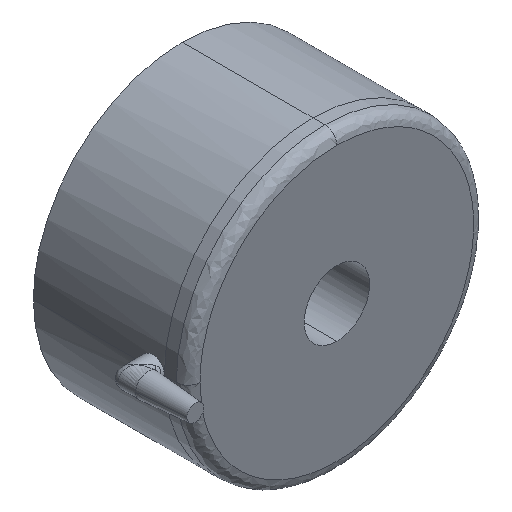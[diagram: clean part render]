
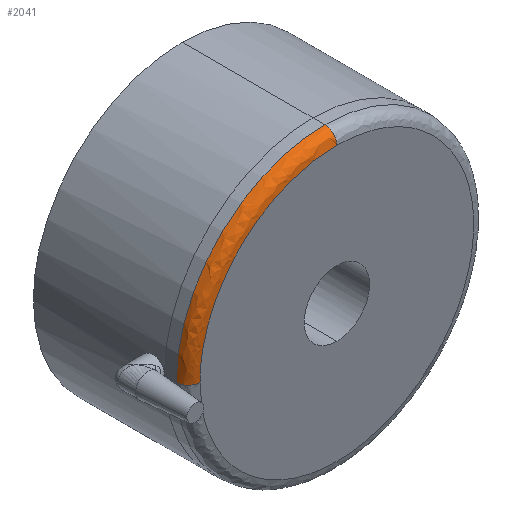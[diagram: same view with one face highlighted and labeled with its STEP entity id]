
A CAD part, isometric view. The second image highlights one B-rep face of the part: STEP entity #2041.
In plain terms, the highlighted free-form (B-spline) face has degree [3, 3] with [4, 4] control points.
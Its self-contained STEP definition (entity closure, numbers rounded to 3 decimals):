
#11 = CARTESIAN_POINT ( 'NONE',  ( -8.55, -1., 9.128 ) ) ;
#33 = B_SPLINE_CURVE_WITH_KNOTS ( 'NONE', 2,
 ( #1029, #668, #2358, #1441, #1636, #2399, #1241, #2174, #67 ),
 .UNSPECIFIED., .F., .F.,
 ( 3, 2, 2, 2, 3 ),
 ( 0., 0.25, 0.5, 0.75, 1. ),
 .UNSPECIFIED. ) ;
#34 = CARTESIAN_POINT ( 'NONE',  ( -8.246, -1., 9.403 ) ) ;
#44 = CARTESIAN_POINT ( 'NONE',  ( -5.161, -1., 11.392 ) ) ;
#58 = CARTESIAN_POINT ( 'NONE',  ( -12.08, -2.063, 0. ) ) ;
#67 = CARTESIAN_POINT ( 'NONE',  ( -11.5, -2., 0. ) ) ;
#84 = CARTESIAN_POINT ( 'NONE',  ( -12.495, -0.9, 0. ) ) ;
#98 = CARTESIAN_POINT ( 'NONE',  ( -12.495, -0.9, 7.319 ) ) ;
#196 = CARTESIAN_POINT ( 'NONE',  ( 0., -2.063, 12.08 ) ) ;
#231 = CARTESIAN_POINT ( 'NONE',  ( -9.128, -1., 8.55 ) ) ;
#241 = CARTESIAN_POINT ( 'NONE',  ( -11.843, -1., 4.02 ) ) ;
#252 = CARTESIAN_POINT ( 'NONE',  ( 0., -1., 12.5 ) ) ;
#293 = CARTESIAN_POINT ( 'NONE',  ( 0., -1., 12.5 ) ) ;
#352 = CARTESIAN_POINT ( 'NONE',  ( 0., -1., 12.5 ) ) ;
#360 = ORIENTED_EDGE ( 'NONE', *, *, #2088, .T. ) ;
#391 = FACE_OUTER_BOUND ( 'NONE', #1028, .T. ) ;
#418 = CARTESIAN_POINT ( 'NONE',  ( -10.621, -1., 6.605 ) ) ;
#428 = CARTESIAN_POINT ( 'NONE',  ( -12.5, -1., 0. ) ) ;
#439 = CARTESIAN_POINT ( 'NONE',  ( -4.02, -1., 11.843 ) ) ;
#502 = CARTESIAN_POINT ( 'NONE',  ( -12.5, -1., 0. ) ) ;
#621 = VERTEX_POINT ( 'NONE', #2338 ) ;
#631 = EDGE_CURVE ( 'NONE', #1333, #1917, #1830, .T. ) ;
#634 = CARTESIAN_POINT ( 'NONE',  ( -5.532, -1., 11.217 ) ) ;
#648 = CARTESIAN_POINT ( 'NONE',  ( -7.359, -1.58, 12.563 ) ) ;
#656 = CARTESIAN_POINT ( 'NONE',  ( -2.84, -1., 12.18 ) ) ;
#659 = CARTESIAN_POINT ( 'NONE',  ( 0., -2., 11.5 ) ) ;
#668 = CARTESIAN_POINT ( 'NONE',  ( -2.288, -2., 11.5 ) ) ;
#671 = ORIENTED_EDGE ( 'NONE', *, *, #2319, .F. ) ;
#696 = CARTESIAN_POINT ( 'NONE',  ( -11.4, -1.995, 6.678 ) ) ;
#745 =( BOUNDED_CURVE ( )  B_SPLINE_CURVE ( 3, ( #1045, #2389, #2026, #293 ),
 .UNSPECIFIED., .F., .T. ) 
 B_SPLINE_CURVE_WITH_KNOTS ( ( 4, 4 ),
 ( 0.063, 0.937 ),
 .UNSPECIFIED. ) 
 CURVE ( )  GEOMETRIC_REPRESENTATION_ITEM ( )  RATIONAL_B_SPLINE_CURVE ( ( 0.957, 0.77, 0.77, 0.957 ) ) 
 REPRESENTATION_ITEM ( '' )  );
#832 = CARTESIAN_POINT ( 'NONE',  ( -12.563, -1.58, 7.359 ) ) ;
#966 = CARTESIAN_POINT ( 'NONE',  ( -12.34, -1., 2.037 ) ) ;
#978 = CARTESIAN_POINT ( 'NONE',  ( -9.922, -1., 7.614 ) ) ;
#1008 = CARTESIAN_POINT ( 'NONE',  ( -11.705, -1., 4.406 ) ) ;
#1028 = EDGE_LOOP ( 'NONE', ( #2280, #671, #360, #1674 ) ) ;
#1029 = CARTESIAN_POINT ( 'NONE',  ( 0., -2., 11.5 ) ) ;
#1030 = CARTESIAN_POINT ( 'NONE',  ( -0.409, -1., 12.5 ) ) ;
#1045 = CARTESIAN_POINT ( 'NONE',  ( 0., -2., 11.5 ) ) ;
#1063 = CARTESIAN_POINT ( 'NONE',  ( -12.5, -1., 0. ) ) ;
#1068 = CARTESIAN_POINT ( 'NONE',  ( -3.237, -1., 12.08 ) ) ;
#1194 = CARTESIAN_POINT ( 'NONE',  ( -12.18, -1., 2.84 ) ) ;
#1241 = CARTESIAN_POINT ( 'NONE',  ( -10.625, -2., 4.401 ) ) ;
#1333 = VERTEX_POINT ( 'NONE', #502 ) ;
#1349 = CARTESIAN_POINT ( 'NONE',  ( -11.217, -1., 5.532 ) ) ;
#1372 = CARTESIAN_POINT ( 'NONE',  ( -12.48, -1., 0.818 ) ) ;
#1395 = CARTESIAN_POINT ( 'NONE',  ( -4.406, -1., 11.705 ) ) ;
#1429 = CARTESIAN_POINT ( 'NONE',  ( -0.818, -1., 12.48 ) ) ;
#1441 = CARTESIAN_POINT ( 'NONE',  ( -6.514, -2., 9.75 ) ) ;
#1446 = CARTESIAN_POINT ( 'NONE',  ( 0., -0.9, 12.495 ) ) ;
#1543 = CARTESIAN_POINT ( 'NONE',  ( -11.392, -1., 5.161 ) ) ;
#1558 = CARTESIAN_POINT ( 'NONE',  ( -7.614, -1., 9.922 ) ) ;
#1588 = CARTESIAN_POINT ( 'NONE',  ( -10.166, -1., 7.285 ) ) ;
#1636 = CARTESIAN_POINT ( 'NONE',  ( -8.132, -2., 8.132 ) ) ;
#1674 = ORIENTED_EDGE ( 'NONE', *, *, #631, .F. ) ;
#1680 = CARTESIAN_POINT ( 'NONE',  ( -11.5, -2., 0. ) ) ;
#1730 = CARTESIAN_POINT ( 'NONE',  ( -6.253, -1., 10.831 ) ) ;
#1735 = CARTESIAN_POINT ( 'NONE',  ( 0., -1.58, 12.563 ) ) ;
#1743 = CARTESIAN_POINT ( 'NONE',  ( -9.403, -1., 8.246 ) ) ;
#1755 = CARTESIAN_POINT ( 'NONE',  ( -12.5, -1., 0.409 ) ) ;
#1776 = CARTESIAN_POINT ( 'NONE',  ( -6.605, -1., 10.621 ) ) ;
#1789 = CARTESIAN_POINT ( 'NONE',  ( -11.4, -1.995, 0. ) ) ;
#1826 = CARTESIAN_POINT ( 'NONE',  ( -12.08, -2.063, 7.076 ) ) ;
#1830 = B_SPLINE_CURVE_WITH_KNOTS ( 'NONE', 3,
 ( #428, #1755, #1372, #2328, #966, #1194, #1963, #241, #1008, #1543, #1349, #1932, #418, #1588, #978, #1743, #231, #11, #34, #1558, #2317, #1776, #1730, #634, #44, #1395, #439, #1068, #656, #2175, #1987, #1429, #1030, #252 ),
 .UNSPECIFIED., .F., .F.,
 ( 4, 2, 2, 2, 2, 2, 2, 2, 2, 2, 2, 2, 2, 2, 2, 2, 4 ),
 ( 0., 0.063, 0.125, 0.188, 0.25, 0.313, 0.375, 0.438, 0.5, 0.563, 0.625, 0.688, 0.75, 0.813, 0.875, 0.938, 1. ),
 .UNSPECIFIED. ) ;
#1842 = CARTESIAN_POINT ( 'NONE',  ( -12.5, -1.586, 0. ) ) ;
#1892 = EDGE_CURVE ( 'NONE', #1333, #621, #2040, .T. ) ;
#1917 = VERTEX_POINT ( 'NONE', #352 ) ;
#1924 = CARTESIAN_POINT ( 'NONE',  ( 0., -1.995, 11.4 ) ) ;
#1932 = CARTESIAN_POINT ( 'NONE',  ( -10.831, -1., 6.253 ) ) ;
#1963 = CARTESIAN_POINT ( 'NONE',  ( -12.08, -1., 3.237 ) ) ;
#1977 = CARTESIAN_POINT ( 'NONE',  ( -12.563, -1.58, 0. ) ) ;
#1987 = CARTESIAN_POINT ( 'NONE',  ( -1.632, -1., 12.4 ) ) ;
#2026 = CARTESIAN_POINT ( 'NONE',  ( 0., -1.586, 12.5 ) ) ;
#2040 =( BOUNDED_CURVE ( )  B_SPLINE_CURVE ( 3, ( #1063, #1842, #2245, #1680 ),
 .UNSPECIFIED., .F., .F. ) 
 B_SPLINE_CURVE_WITH_KNOTS ( ( 4, 4 ),
 ( -0.937, -0.063 ),
 .UNSPECIFIED. ) 
 CURVE ( )  GEOMETRIC_REPRESENTATION_ITEM ( )  RATIONAL_B_SPLINE_CURVE ( ( 0.957, 0.77, 0.77, 0.957 ) ) 
 REPRESENTATION_ITEM ( '' )  );
#2041 = ADVANCED_FACE ( 'NONE', ( #391 ), #2125, .F. ) ;
#2088 = EDGE_CURVE ( 'NONE', #2129, #1917, #745, .T. ) ;
#2125 =( BOUNDED_SURFACE ( )  B_SPLINE_SURFACE ( 3, 3, ( 
 ( #1924, #196, #1735, #1446 ),
 ( #2374, #2215, #648, #2203 ),
 ( #696, #1826, #832, #98 ),
 ( #1789, #58, #1977, #84 ) ),
 .UNSPECIFIED., .F., .F., .T. ) 
 B_SPLINE_SURFACE_WITH_KNOTS ( ( 4, 4 ),
 ( 4, 4 ),
 ( 0., 1. ),
 ( 0., 1. ),
 .UNSPECIFIED. ) 
 GEOMETRIC_REPRESENTATION_ITEM ( )  RATIONAL_B_SPLINE_SURFACE ( (
 ( 1., 0.755, 0.755, 1.),
 ( 0.805, 0.608, 0.608, 0.805),
 ( 0.805, 0.608, 0.608, 0.805),
 ( 1., 0.755, 0.755, 1.) ) ) 
 REPRESENTATION_ITEM ( '' )  SURFACE ( )  );
#2129 = VERTEX_POINT ( 'NONE', #659 ) ;
#2174 = CARTESIAN_POINT ( 'NONE',  ( -11.5, -2., 2.289 ) ) ;
#2175 = CARTESIAN_POINT ( 'NONE',  ( -2.037, -1., 12.34 ) ) ;
#2203 = CARTESIAN_POINT ( 'NONE',  ( -7.319, -0.9, 12.495 ) ) ;
#2215 = CARTESIAN_POINT ( 'NONE',  ( -7.076, -2.063, 12.08 ) ) ;
#2245 = CARTESIAN_POINT ( 'NONE',  ( -12.086, -2., 0. ) ) ;
#2280 = ORIENTED_EDGE ( 'NONE', *, *, #1892, .T. ) ;
#2317 = CARTESIAN_POINT ( 'NONE',  ( -7.285, -1., 10.166 ) ) ;
#2319 = EDGE_CURVE ( 'NONE', #2129, #621, #33, .T. ) ;
#2328 = CARTESIAN_POINT ( 'NONE',  ( -12.4, -1., 1.632 ) ) ;
#2338 = CARTESIAN_POINT ( 'NONE',  ( -11.5, -2., 0. ) ) ;
#2358 = CARTESIAN_POINT ( 'NONE',  ( -4.401, -2., 10.625 ) ) ;
#2374 = CARTESIAN_POINT ( 'NONE',  ( -6.678, -1.995, 11.4 ) ) ;
#2389 = CARTESIAN_POINT ( 'NONE',  ( 0., -2., 12.086 ) ) ;
#2399 = CARTESIAN_POINT ( 'NONE',  ( -9.749, -2., 6.515 ) ) ;
